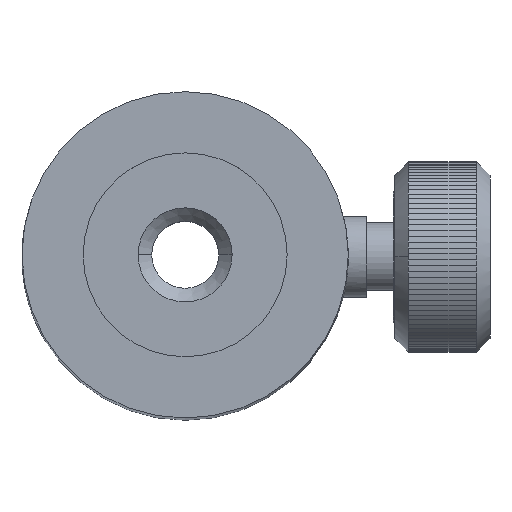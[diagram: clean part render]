
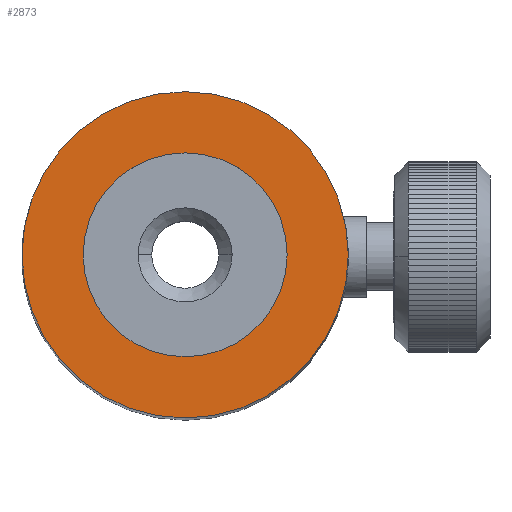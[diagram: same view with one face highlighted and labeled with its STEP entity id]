
A CAD part, top view. The second image highlights one B-rep face of the part: STEP entity #2873.
In plain terms, the highlighted planar face has unit normal (0, 0, 1).
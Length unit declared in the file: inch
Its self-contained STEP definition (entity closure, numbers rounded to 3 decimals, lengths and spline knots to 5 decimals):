
#2036 = EDGE_CURVE ( 'NONE', #21521, #21467, #10143, .T. ) ;
#2873 = ADVANCED_FACE ( 'NONE', ( #13944, #13943 ), #13982, .F. ) ;
#2874 = EDGE_LOOP ( 'NONE', ( #2875, #2876 ) ) ;
#2875 = ORIENTED_EDGE ( 'NONE', *, *, #21422, .F. ) ;
#2876 = ORIENTED_EDGE ( 'NONE', *, *, #2877, .F. ) ;
#2877 = EDGE_CURVE ( 'NONE', #21424, #21423, #13977, .T. ) ;
#2878 = EDGE_LOOP ( 'NONE', ( #2937, #2938 ) ) ;
#2937 = ORIENTED_EDGE ( 'NONE', *, *, #2036, .F. ) ;
#2938 = ORIENTED_EDGE ( 'NONE', *, *, #21520, .F. ) ;
#10139 = DIRECTION ( 'NONE',  ( 1., 0., 0. ) ) ;
#10140 = DIRECTION ( 'NONE',  ( 0., 0., 1. ) ) ;
#10141 = CARTESIAN_POINT ( 'NONE',  ( 24., 0., 100. ) ) ;
#10142 = AXIS2_PLACEMENT_3D ( 'NONE', #10141, #10140, #10139 ) ;
#10143 = CIRCLE ( 'NONE', #10142, 7.5 ) ;
#13943 = FACE_BOUND ( 'NONE', #2878, .T. ) ;
#13944 = FACE_OUTER_BOUND ( 'NONE', #2874, .T. ) ;
#13973 = DIRECTION ( 'NONE',  ( -1., 0., 0. ) ) ;
#13974 = DIRECTION ( 'NONE',  ( 0., 0., -1. ) ) ;
#13975 = CARTESIAN_POINT ( 'NONE',  ( 24., 0., 100. ) ) ;
#13976 = AXIS2_PLACEMENT_3D ( 'NONE', #13975, #13974, #13973 ) ;
#13977 = CIRCLE ( 'NONE', #13976, 12. ) ;
#13978 = DIRECTION ( 'NONE',  ( -1., 0., 0. ) ) ;
#13979 = DIRECTION ( 'NONE',  ( 0., 0., -1. ) ) ;
#13980 = CARTESIAN_POINT ( 'NONE',  ( 24., 0., 100. ) ) ;
#13981 = AXIS2_PLACEMENT_3D ( 'NONE', #13980, #13979, #13978 ) ;
#13982 = PLANE ( 'NONE',  #13981 ) ;
#17493 = CARTESIAN_POINT ( 'NONE',  ( 36., 0., 100. ) ) ;
#17494 = CARTESIAN_POINT ( 'NONE',  ( 12., 0., 100. ) ) ;
#17495 = DIRECTION ( 'NONE',  ( -1., 0., 0. ) ) ;
#17496 = DIRECTION ( 'NONE',  ( 0., 0., -1. ) ) ;
#17497 = CARTESIAN_POINT ( 'NONE',  ( 24., 0., 100. ) ) ;
#17498 = AXIS2_PLACEMENT_3D ( 'NONE', #17497, #17496, #17495 ) ;
#17499 = CIRCLE ( 'NONE', #17498, 12. ) ;
#17634 = CARTESIAN_POINT ( 'NONE',  ( 16.5, 0., 100. ) ) ;
#17775 = CARTESIAN_POINT ( 'NONE',  ( 31.5, 0., 100. ) ) ;
#17776 = DIRECTION ( 'NONE',  ( 1., 0., 0. ) ) ;
#17777 = DIRECTION ( 'NONE',  ( 0., 0., 1. ) ) ;
#17778 = CARTESIAN_POINT ( 'NONE',  ( 24., 0., 100. ) ) ;
#17779 = AXIS2_PLACEMENT_3D ( 'NONE', #17778, #17777, #17776 ) ;
#17780 = CIRCLE ( 'NONE', #17779, 7.5 ) ;
#21422 = EDGE_CURVE ( 'NONE', #21423, #21424, #17499, .T. ) ;
#21423 = VERTEX_POINT ( 'NONE', #17494 ) ;
#21424 = VERTEX_POINT ( 'NONE', #17493 ) ;
#21467 = VERTEX_POINT ( 'NONE', #17634 ) ;
#21520 = EDGE_CURVE ( 'NONE', #21467, #21521, #17780, .T. ) ;
#21521 = VERTEX_POINT ( 'NONE', #17775 ) ;
